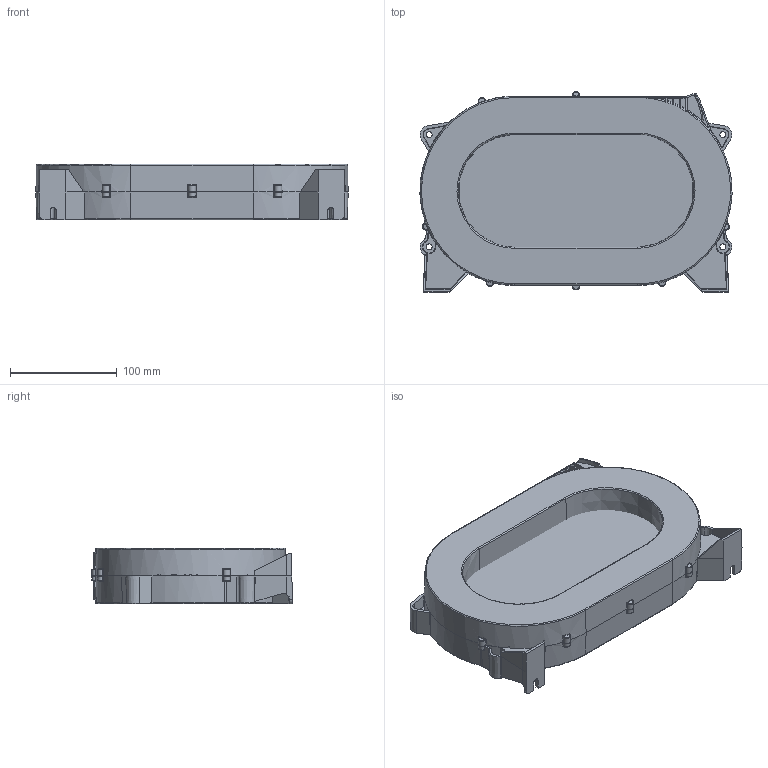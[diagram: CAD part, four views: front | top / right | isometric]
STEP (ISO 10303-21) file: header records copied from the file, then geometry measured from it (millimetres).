
FILE_DESCRIPTION((''),'2;1');
FILE_NAME('C_14657_105X220','2020-05-29T11:32:50',('esors'),(''),'CREO PARAMETRIC BY PTC INC, 2018260','CREO PARAMETRIC BY PTC INC, 2018260','');
FILE_SCHEMA(('AUTOMOTIVE_DESIGN { 1 0 10303 214 1 1 1 1 }'));
Length unit declared in the file: metre
Products named in the file (1): C_14657_105X220
Bounding box: 292.29 x 187.63 x 52.2 mm (x, y, z)
Volume: 324587.9 mm3; surface area: 304744.1 mm2
Topology: 1 solids, 4 shells, 967 faces, 2674 edges, 1699 vertices
Faces by surface type: plane 392, cylinder 216, cone 164, bspline 98, torus 77, sphere 14, extrusion 6
Entity records: 41191 total; most frequent: CARTESIAN_POINT 17397, ORIENTED_EDGE 5318, DIRECTION 4512, EDGE_CURVE 2659, AXIS2_PLACEMENT_3D 1709, VERTEX_POINT 1698, VECTOR 1094, LINE 1088
